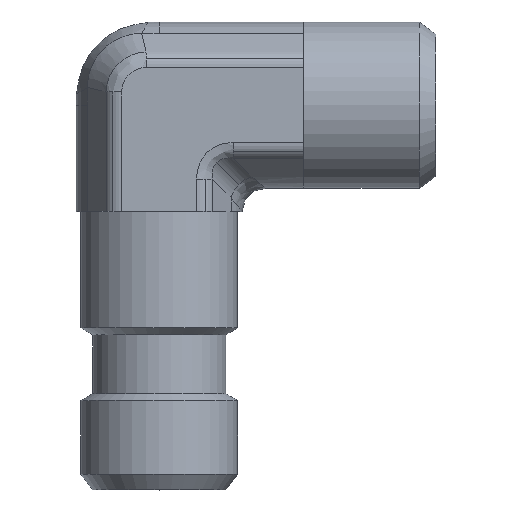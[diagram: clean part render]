
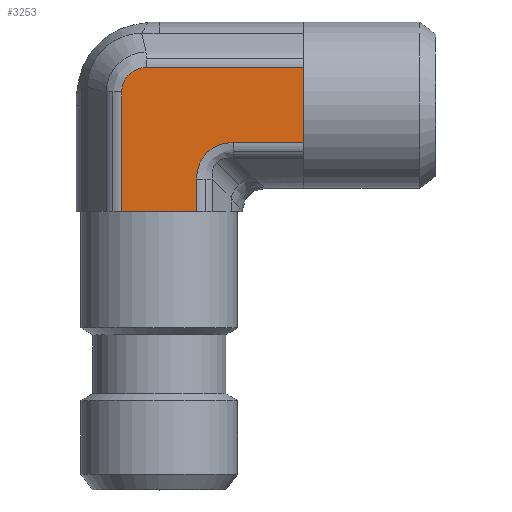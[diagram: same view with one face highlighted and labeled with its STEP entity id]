
A CAD part, top view. The second image highlights one B-rep face of the part: STEP entity #3253.
In plain terms, the highlighted planar face has unit normal (0, 0, 1) as drawn and (0, -1, 0) by its records, which use the part's own axes.
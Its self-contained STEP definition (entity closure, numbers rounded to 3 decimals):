
#319=CARTESIAN_POINT('',(1.649,-6.9,3.118));
#320=VERTEX_POINT('',#319);
#328=CARTESIAN_POINT('',(4.35,-6.9,3.118));
#329=VERTEX_POINT('',#328);
#330=CARTESIAN_POINT('',(1.649,-6.9,3.118));
#331=DIRECTION('',(1.0,0.0,0.0));
#332=VECTOR('',#331,2.701);
#333=LINE('',#330,#332);
#334=EDGE_CURVE('',#320,#329,#333,.T.);
#443=CARTESIAN_POINT('',(-7.618,-6.9,-1.091));
#444=VERTEX_POINT('',#443);
#452=CARTESIAN_POINT('',(-7.618,-6.9,12.0));
#453=VERTEX_POINT('',#452);
#454=CARTESIAN_POINT('',(-7.618,-6.9,-1.091));
#455=DIRECTION('',(0.0,0.0,1.0));
#456=VECTOR('',#455,13.091);
#457=LINE('',#454,#456);
#458=EDGE_CURVE('',#444,#453,#457,.T.);
#1952=CARTESIAN_POINT('',(-4.5,-6.9,12.0));
#1953=VERTEX_POINT('',#1952);
#2071=CARTESIAN_POINT('',(4.35,-6.9,-3.118));
#2072=VERTEX_POINT('',#2071);
#2073=CARTESIAN_POINT('',(4.35,-6.9,-3.118));
#2074=DIRECTION('',(0.0,0.0,1.0));
#2075=VECTOR('',#2074,6.235);
#2076=LINE('',#2073,#2075);
#2077=EDGE_CURVE('',#2072,#329,#2076,.T.);
#2445=CARTESIAN_POINT('',(-4.5,-6.9,12.0));
#2446=DIRECTION('',(-1.0,0.0,0.0));
#2447=VECTOR('',#2446,3.118);
#2448=LINE('',#2445,#2447);
#2449=EDGE_CURVE('',#1953,#453,#2448,.T.);
#2509=CARTESIAN_POINT('',(-1.382,-6.9,12.0));
#2510=VERTEX_POINT('',#2509);
#2511=CARTESIAN_POINT('',(-1.382,-6.9,12.0));
#2512=DIRECTION('',(-1.0,0.0,0.0));
#2513=VECTOR('',#2512,3.118);
#2514=LINE('',#2511,#2513);
#2515=EDGE_CURVE('',#2510,#1953,#2514,.T.);
#2938=CARTESIAN_POINT('',(-5.591,-6.9,-3.118));
#2939=VERTEX_POINT('',#2938);
#2947=CARTESIAN_POINT('',(-7.618,-6.9,-1.091));
#2948=CARTESIAN_POINT('',(-7.618,-6.9,-1.223));
#2949=CARTESIAN_POINT('',(-7.605,-6.9,-1.356));
#2950=CARTESIAN_POINT('',(-7.536,-6.9,-1.695));
#2951=CARTESIAN_POINT('',(-7.462,-6.9,-1.896));
#2952=CARTESIAN_POINT('',(-7.191,-6.9,-2.378));
#2953=CARTESIAN_POINT('',(-6.949,-6.9,-2.631));
#2954=CARTESIAN_POINT('',(-6.339,-6.9,-3.011));
#2955=CARTESIAN_POINT('',(-5.965,-6.9,-3.118));
#2956=CARTESIAN_POINT('',(-5.591,-6.9,-3.118));
#2957=B_SPLINE_CURVE_WITH_KNOTS('',3,(#2947,#2948,#2949,#2950,#2951,#2952,#2953,#2954,#2955,#2956),.UNSPECIFIED.,.F.,.U.,(4,2,2,2,4),(-3.166,-2.771,-2.137,-1.124,0.0),.UNSPECIFIED.);
#2958=EDGE_CURVE('',#2939,#444,#2957,.F.);
#2985=CARTESIAN_POINT('',(4.35,-6.9,-3.118));
#2986=DIRECTION('',(-1.0,0.0,0.0));
#2987=VECTOR('',#2986,9.941);
#2988=LINE('',#2985,#2987);
#2989=EDGE_CURVE('',#2072,#2939,#2988,.T.);
#3121=CARTESIAN_POINT('',(-1.382,-6.9,6.149));
#3122=VERTEX_POINT('',#3121);
#3123=CARTESIAN_POINT('',(-1.382,-6.9,12.0));
#3124=DIRECTION('',(0.0,0.0,-1.0));
#3125=VECTOR('',#3124,5.851);
#3126=LINE('',#3123,#3125);
#3127=EDGE_CURVE('',#2510,#3122,#3126,.T.);
#3210=CARTESIAN_POINT('',(2.659,-6.9,7.159));
#3211=DIRECTION('',(0.,-1.,0.));
#3212=DIRECTION('',(-0.707,0.,-0.707));
#3213=AXIS2_PLACEMENT_3D('',#3210,#3211,#3212);
#3214=ELLIPSE('',#3213,4.518,3.5);
#3215=EDGE_CURVE('',#3122,#320,#3214,.T.);
#3237=CARTESIAN_POINT('',(-4.5,-6.9,-3.175));
#3238=DIRECTION('',(0.0,-1.0,0.0));
#3239=DIRECTION('',(0.0,0.0,-1.0));
#3240=AXIS2_PLACEMENT_3D('',#3237,#3238,#3239);
#3241=PLANE('',#3240);
#3242=ORIENTED_EDGE('',*,*,#2077,.T.);
#3243=ORIENTED_EDGE('',*,*,#334,.F.);
#3244=ORIENTED_EDGE('',*,*,#3215,.F.);
#3245=ORIENTED_EDGE('',*,*,#3127,.F.);
#3246=ORIENTED_EDGE('',*,*,#2515,.T.);
#3247=ORIENTED_EDGE('',*,*,#2449,.T.);
#3248=ORIENTED_EDGE('',*,*,#458,.F.);
#3249=ORIENTED_EDGE('',*,*,#2958,.F.);
#3250=ORIENTED_EDGE('',*,*,#2989,.F.);
#3251=EDGE_LOOP('',(#3242,#3243,#3244,#3245,#3246,#3247,#3248,#3249,#3250));
#3252=FACE_OUTER_BOUND('',#3251,.T.);
#3253=ADVANCED_FACE('',(#3252),#3241,.T.);
